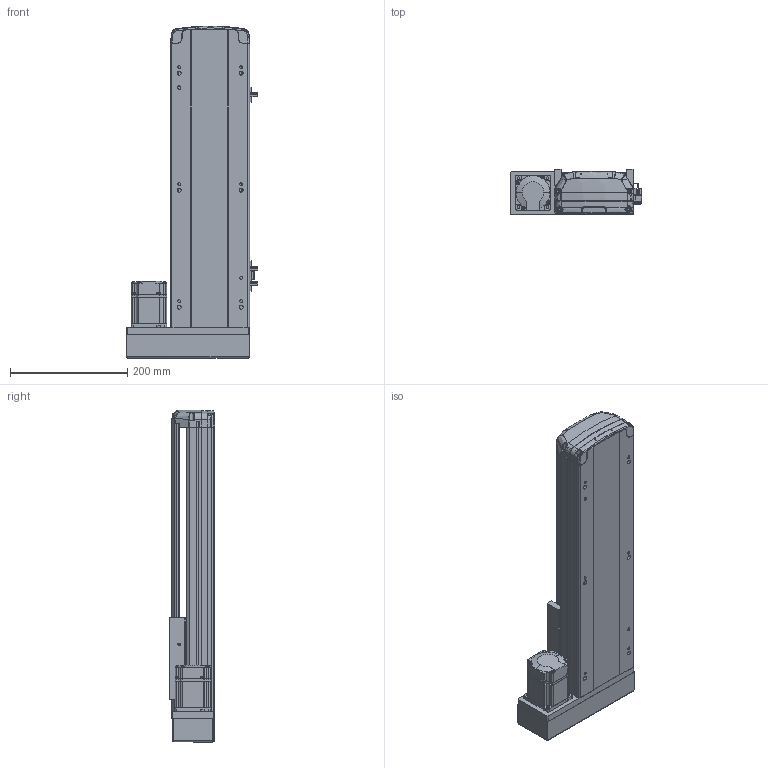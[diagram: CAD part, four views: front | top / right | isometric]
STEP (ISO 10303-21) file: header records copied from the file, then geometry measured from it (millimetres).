
FILE_DESCRIPTION (( 'STEP AP214' ), '1' );
FILE_NAME ('RTH14-XX-300-L-M20-C4.STEP', '2025-10-25T02:36:25', ( 'Microsoft' ), ( 'Microsoft' ), 'SwSTEP 2.0', 'SolidWorks 2018', '' );
FILE_SCHEMA (( 'AUTOMOTIVE_DESIGN' ));
Length unit declared in the file: millimetre
Products named in the file (10): N_RTH14-GY-001P^RTH14-XX-XX-L-M20-C4; N_RTH13-L-018 裔赽^RTH14-XX-XX-L-M20-C4; RTH14-XX-300-L-M20-C4; N_RTH14-R-004-SFSR16賑釱^RTH14-XX-XX-L-M20-C4; N_RTH13-L-008-P20 萇儂啣酘蛌殏^RTH14-XX-XX-L-M20-C4; N_RTH14-M-007P奻裔^RTH14-XX-XX-L-M20-C4; N_RTH13-L-012感应片（外置）^RTH14-XX-XX-L-M20-C4; N_OMRON EE-SX672 传感器^RTH14-XX-XX-L-M20-C4; N_RTH14-M-011P菁釱^RTH14-XX-XX-L-M20-C4; N_MSMD022P1AA_200W^RTH14-XX-XX-L-M20-C4
Assembly tree (11 placements, depth 2):
  RTH14-XX-300-L-M20-C4
    N_RTH14-M-011P菁釱^RTH14-XX-XX-L-M20-C4
    N_RTH14-M-007P奻裔^RTH14-XX-XX-L-M20-C4
    N_MSMD022P1AA_200W^RTH14-XX-XX-L-M20-C4
    N_RTH13-L-008-P20 萇儂啣酘蛌殏^RTH14-XX-XX-L-M20-C4
    N_RTH13-L-018 裔赽^RTH14-XX-XX-L-M20-C4
    N_RTH13-L-012感应片（外置）^RTH14-XX-XX-L-M20-C4
    N_OMRON EE-SX672 传感器^RTH14-XX-XX-L-M20-C4  x3
    N_RTH14-GY-001P^RTH14-XX-XX-L-M20-C4
    N_RTH14-R-004-SFSR16賑釱^RTH14-XX-XX-L-M20-C4
Bounding box: 224 x 78.03 x 567.49 mm (x, y, z)
Volume: 2829670.2 mm3; surface area: 674536.3 mm2
Topology: 11 solids, 11 shells, 1840 faces, 5135 edges, 3362 vertices
Faces by surface type: plane 985, cylinder 461, bspline 345, cone 45, torus 4
Entity records: 55881 total; most frequent: CARTESIAN_POINT 22729, ORIENTED_EDGE 7338, DIRECTION 5830, EDGE_CURVE 3669, VERTEX_POINT 2398, LINE 2126, VECTOR 2126, AXIS2_PLACEMENT_3D 1852
